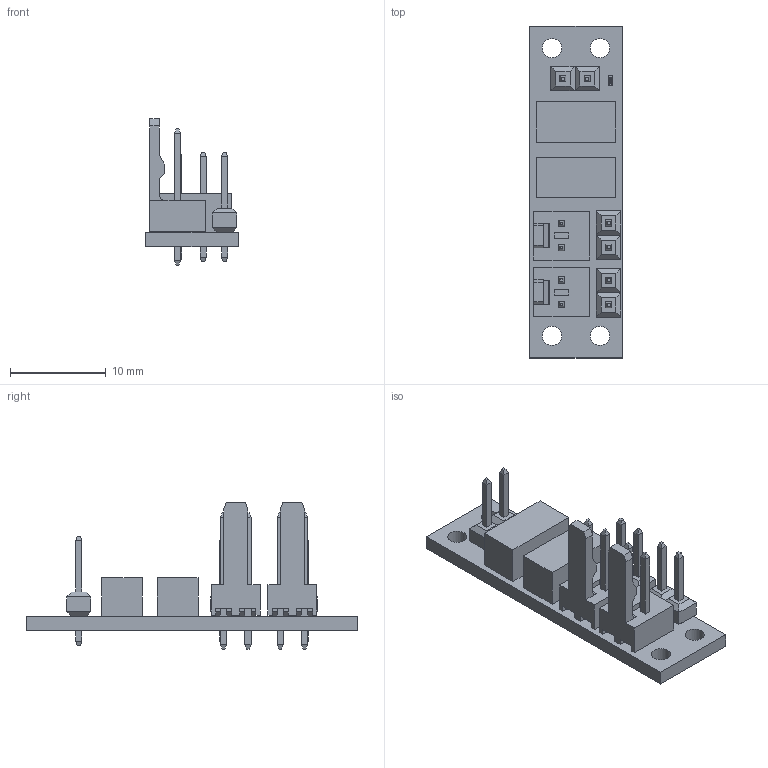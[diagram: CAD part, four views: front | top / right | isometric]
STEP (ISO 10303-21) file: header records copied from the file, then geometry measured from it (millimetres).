
FILE_DESCRIPTION(/* description */ (''),/* implementation_level */ '2;1');
FILE_NAME(/* name */ 'C:/Users/priba/Downloads/mrm-can-pow.step',/* time_stamp */ '2020-09-13T09:29:27+02:00',/* author */ (''),/* organization */ (''),/* preprocessor_version */ 'ST-DEVELOPER v18.1',/* originating_system */ 'Autodesk Translation Framework v9.3.0.1241',/* authorisation */ '');
FILE_SCHEMA (('AUTOMOTIVE_DESIGN { 1 0 10303 214 3 1 1 }'));
Length unit declared in the file: millimetre
Products named in the file (6): mrm-can-pow; Packages; 1X02; HDRV2W64P254_2X1_508X580H1118; JST_BM04B-GHK-TBT; R0402
Assembly tree (9 placements, depth 3):
  mrm-can-pow
    Packages
      1X02  x3
      HDRV2W64P254_2X1_508X580H1118  x2
      JST_BM04B-GHK-TBT  x2
      R0402
Bounding box: 9.6 x 34.6 x 15.26 mm (x, y, z)
Volume: 1077.9 mm3; surface area: 2021.1 mm2
Topology: 9 solids, 9 shells, 439 faces, 1107 edges, 709 vertices
Faces by surface type: plane 373, cylinder 50, sphere 16
Full cylindrical faces by diameter (mm): 1.016 x6, 1.11 x4, 2 x4
Entity records: 8374 total; most frequent: CARTESIAN_POINT 1874, ORIENTED_EDGE 1324, DIRECTION 1133, EDGE_CURVE 662, VERTEX_POINT 447, LINE 433, VECTOR 433, AXIS2_PLACEMENT_3D 350
